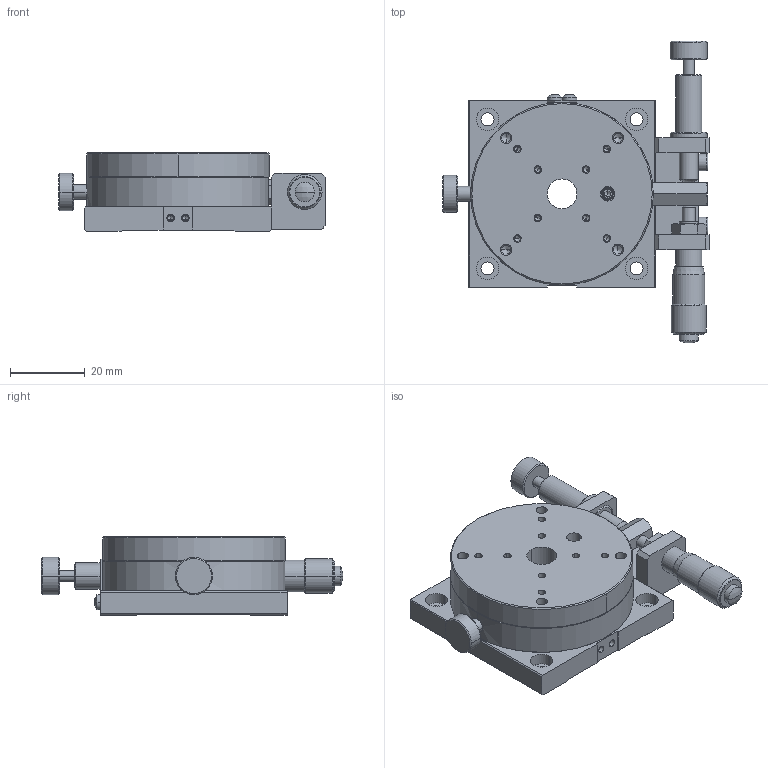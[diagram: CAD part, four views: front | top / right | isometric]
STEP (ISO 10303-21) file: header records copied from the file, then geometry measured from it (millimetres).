
FILE_DESCRIPTION (( 'STEP AP214' ), '1' );
FILE_NAME ('RM05A-D1-R.STEP', '2007-08-01T03:53:21', ( ' ' ), ( ' ' ), 'SwSTEP 2.0', 'SolidWorks 2006052', '' );
FILE_SCHEMA (( 'AUTOMOTIVE_DESIGN' ));
Length unit declared in the file: millimetre
Products named in the file (7): MICROMETERHEAD(MHT4-6.5)spindle-3; 003410-1030(3D)-1; 000211-1080(3D)-3; 000211-1130(3D)-3; RM05A-D1-R; 003410-1020(3D)-1; 003410-1010(3D)-1
Assembly tree (6 placements, depth 2):
  RM05A-D1-R
    003410-1010(3D)-1
    MICROMETERHEAD(MHT4-6.5)spindle-3
    000211-1080(3D)-3
    003410-1020(3D)-1
    003410-1030(3D)-1
    000211-1130(3D)-3
Bounding box: 71.5 x 81 x 21 mm (x, y, z)
Volume: 45799.8 mm3; surface area: 28817.5 mm2
Topology: 6 solids, 33 shells, 1002 faces, 2231 edges, 1277 vertices
Faces by surface type: plane 373, cylinder 334, cone 269, sphere 14, torus 12
Entity records: 27419 total; most frequent: DIRECTION 5108, CARTESIAN_POINT 4833, ORIENTED_EDGE 4298, EDGE_CURVE 2149, AXIS2_PLACEMENT_3D 2000, VERTEX_POINT 1277, EDGE_LOOP 1130, VECTOR 1108
